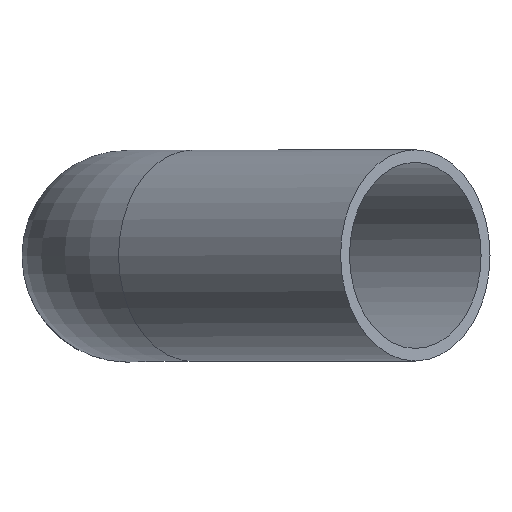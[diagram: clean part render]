
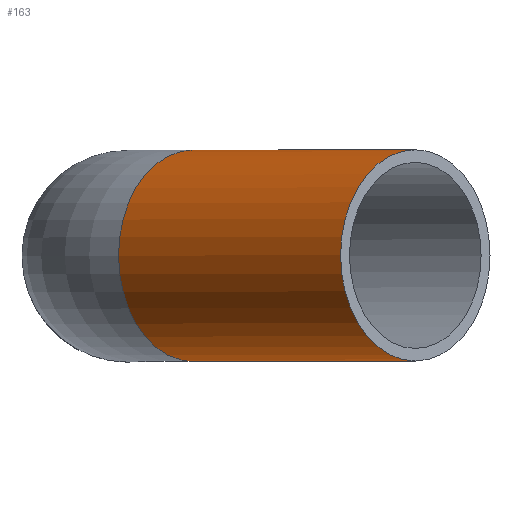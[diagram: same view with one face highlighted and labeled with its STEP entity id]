
A CAD part, top view. The second image highlights one B-rep face of the part: STEP entity #163.
In plain terms, the highlighted cylindrical face has radius 13.45 mm (diameter 26.9 mm), a full revolution.
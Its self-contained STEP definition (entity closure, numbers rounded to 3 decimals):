
#136=CARTESIAN_POINT('',(8.347,0.0,60.147));
#137=DIRECTION('',(0.707,0.0,0.707));
#138=DIRECTION('',(-0.707,0.0,0.707));
#139=AXIS2_PLACEMENT_3D('',#136,#137,#138);
#140=CYLINDRICAL_SURFACE('',#139,13.45);
#141=CARTESIAN_POINT('',(46.139,0.,78.918));
#142=VERTEX_POINT('',#141);
#143=CARTESIAN_POINT('',(36.628,0.0,88.428));
#144=DIRECTION('',(-0.707,0.0,-0.707));
#145=DIRECTION('',(-0.707,0.0,0.707));
#146=AXIS2_PLACEMENT_3D('',#143,#144,#145);
#147=CIRCLE('',#146,13.45);
#148=EDGE_CURVE('',#142,#142,#147,.T.);
#149=ORIENTED_EDGE('',*,*,#148,.T.);
#150=EDGE_LOOP('',(#149));
#151=FACE_OUTER_BOUND('',#150,.T.);
#152=CARTESIAN_POINT('',(17.858,0.,50.637));
#153=VERTEX_POINT('',#152);
#154=CARTESIAN_POINT('',(8.347,0.0,60.147));
#155=DIRECTION('',(-0.707,0.0,-0.707));
#156=DIRECTION('',(-0.707,0.0,0.707));
#157=AXIS2_PLACEMENT_3D('',#154,#155,#156);
#158=CIRCLE('',#157,13.45);
#159=EDGE_CURVE('',#153,#153,#158,.T.);
#160=ORIENTED_EDGE('',*,*,#159,.F.);
#161=EDGE_LOOP('',(#160));
#162=FACE_BOUND('',#161,.T.);
#163=ADVANCED_FACE('',(#151,#162),#140,.T.);
